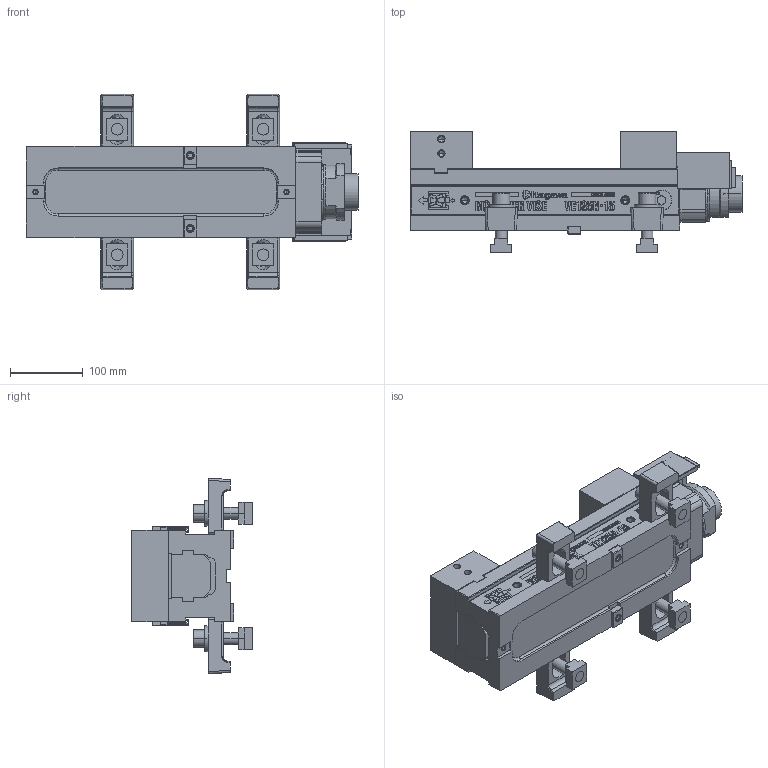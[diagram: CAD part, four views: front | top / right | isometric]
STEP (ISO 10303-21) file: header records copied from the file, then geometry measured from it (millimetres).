
FILE_DESCRIPTION (( 'STEP AP214' ), '1' );
FILE_NAME ('VE125N-15_O.STEP', '2023-08-04T05:37:49', ( '' ), ( '' ), 'SwSTEP 2.0', 'SolidWorks 2020', '' );
FILE_SCHEMA (( 'AUTOMOTIVE_DESIGN' ));
Length unit declared in the file: millimetre
Products named in the file (20): 僕儑乕俵(61M3963740)VE125N; クランプクミタテ(61M420565); エンドカバー(61M4224142)VQ125A; VE125N-15_O; リボルバ部; スプリングケース(61M3522051); ガイドブロック(61M4197783); Bアナツキ M16×65; ボデー(61M2374201)VE125-15; 僗儔僀僪僇僶乕Y(61M3523283)VE125; 儚僢僔儍丂16乮61M4266330乯; 僗儔僀僪僇僶乕X(61M352327)VE125; カバーリング(61M4399252)VE160N; VE125N-15ホンタイ; 僗儔僀僪僇僶乕Z(61M3523293)VE125L; クランプ(61M3159626)VP160; 僕儑乕俥(61M3963730)VE125N; 僒僀僪僔乕儖R(61M8173110); T僗儘僢僩僫僢僩俿俶俵侾俉侾俇; 僒僀僪僔乕儖L(61M8173120)
Assembly tree (23 placements, depth 3):
  VE125N-15_O
    VE125N-15ホンタイ
      ボデー(61M2374201)VE125-15
      僕儑乕俥(61M3963730)VE125N
      僕儑乕俵(61M3963740)VE125N
      スプリングケース(61M3522051)
      カバーリング(61M4399252)VE160N
      リボルバ部
      ガイドブロック(61M4197783)  x2
      僗儔僀僪僇僶乕X(61M352327)VE125
      僗儔僀僪僇僶乕Y(61M3523283)VE125
      僗儔僀僪僇僶乕Z(61M3523293)VE125L
      エンドカバー(61M4224142)VQ125A
      僒僀僪僔乕儖L(61M8173120)
      僒僀僪僔乕儖R(61M8173110)
    クランプクミタテ(61M420565)  x4
      クランプ(61M3159626)VP160
      儚僢僔儍丂16乮61M4266330乯
      Bアナツキ M16×65
      T僗儘僢僩僫僢僩俿俶俵侾俉侾俇
Bounding box: 455 x 165 x 268 mm (x, y, z)
Volume: 5558738 mm3; surface area: 621254.9 mm2
Topology: 30 solids, 30 shells, 1175 faces, 6534 edges, 5705 vertices
Faces by surface type: plane 806, cylinder 266, cone 79, bspline 13, torus 11
Entity records: 70230 total; most frequent: CARTESIAN_POINT 16986, ORIENTED_EDGE 11982, DIRECTION 8045, EDGE_CURVE 5991, VERTEX_POINT 5375, LINE 5029, VECTOR 5029, AXIS2_PLACEMENT_3D 1508
